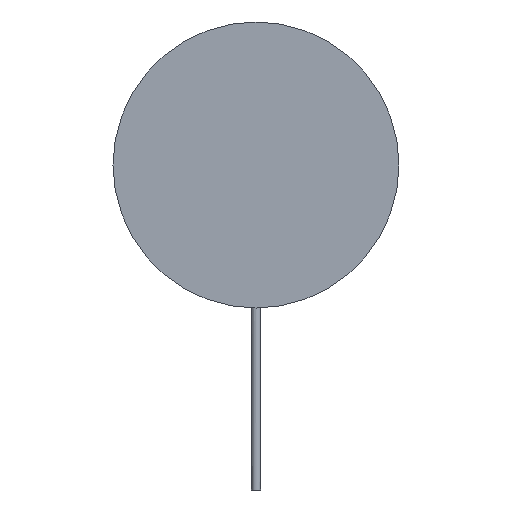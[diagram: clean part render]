
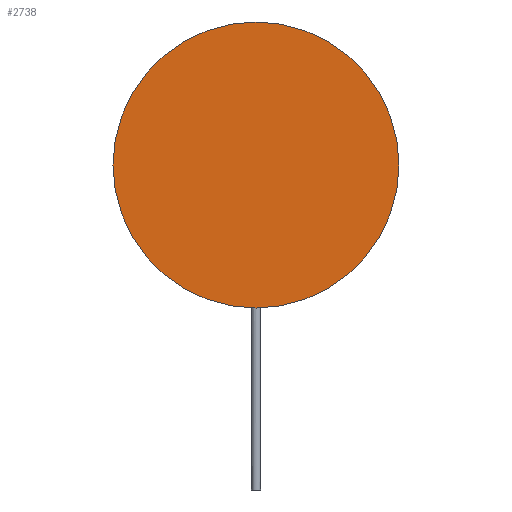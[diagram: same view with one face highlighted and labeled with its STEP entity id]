
A CAD part, front view. The second image highlights one B-rep face of the part: STEP entity #2738.
In plain terms, the highlighted planar face has unit normal (0, -1, 0).
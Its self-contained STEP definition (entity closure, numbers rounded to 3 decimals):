
#630 = AXIS2_PLACEMENT_3D ( 'NONE', #10655, #2547, #6068 ) ;
#1150 = AXIS2_PLACEMENT_3D ( 'NONE', #10619, #5595, #5478 ) ;
#2304 = ORIENTED_EDGE ( 'NONE', *, *, #4541, .F. ) ;
#2547 = DIRECTION ( 'NONE',  ( 0., 1., 0. ) ) ;
#2730 = AXIS2_PLACEMENT_3D ( 'NONE', #6647, #3075, #6704 ) ;
#2738 = ADVANCED_FACE ( 'NONE', ( #6844 ), #10478, .F. ) ;
#3075 = DIRECTION ( 'NONE',  ( 0., 1., 0. ) ) ;
#3492 = CIRCLE ( 'NONE', #2730, 110. ) ;
#4541 = EDGE_CURVE ( 'NONE', #4650, #7123, #3492, .T. ) ;
#4650 = VERTEX_POINT ( 'NONE', #9792 ) ;
#5097 = ORIENTED_EDGE ( 'NONE', *, *, #8281, .F. ) ;
#5202 = CARTESIAN_POINT ( 'NONE',  ( 0., -40., 110. ) ) ;
#5478 = DIRECTION ( 'NONE',  ( 0., 0., 1. ) ) ;
#5595 = DIRECTION ( 'NONE',  ( 0., 1., 0. ) ) ;
#5898 = CIRCLE ( 'NONE', #1150, 110. ) ;
#6068 = DIRECTION ( 'NONE',  ( 0., 0., 1. ) ) ;
#6647 = CARTESIAN_POINT ( 'NONE',  ( 0., -40., 0. ) ) ;
#6704 = DIRECTION ( 'NONE',  ( 0., 0., 1. ) ) ;
#6844 = FACE_OUTER_BOUND ( 'NONE', #10495, .T. ) ;
#7123 = VERTEX_POINT ( 'NONE', #5202 ) ;
#8281 = EDGE_CURVE ( 'NONE', #7123, #4650, #5898, .T. ) ;
#9792 = CARTESIAN_POINT ( 'NONE',  ( 0., -40., -110. ) ) ;
#10478 = PLANE ( 'NONE',  #630 ) ;
#10495 = EDGE_LOOP ( 'NONE', ( #5097, #2304 ) ) ;
#10619 = CARTESIAN_POINT ( 'NONE',  ( 0., -40., 0. ) ) ;
#10655 = CARTESIAN_POINT ( 'NONE',  ( 0., -40., 0. ) ) ;
